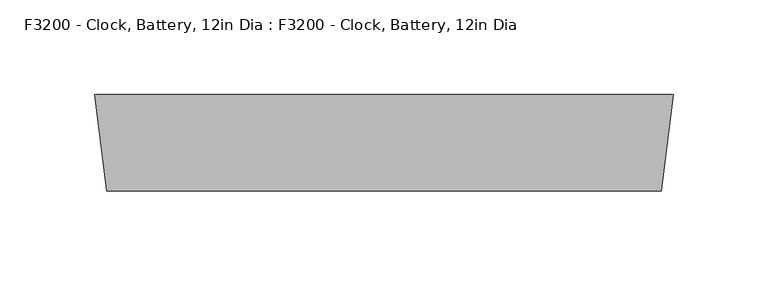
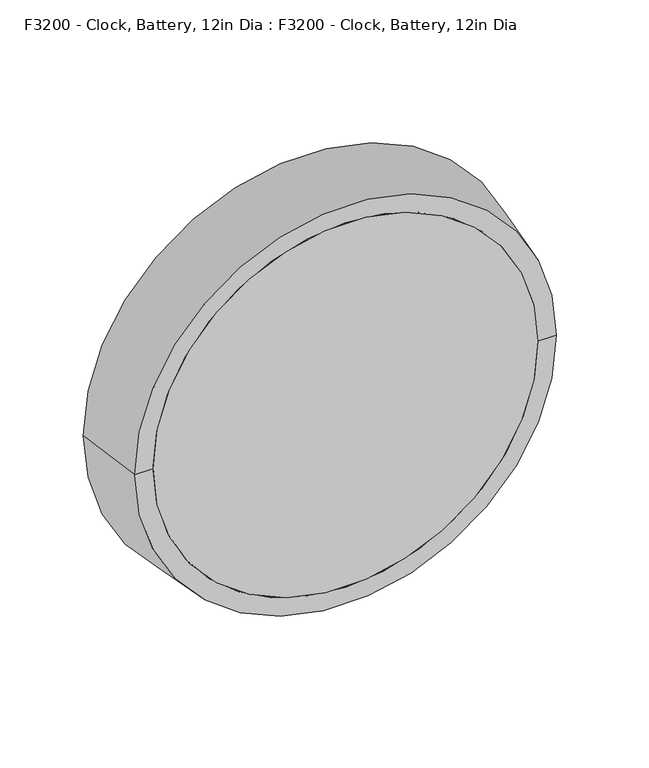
"""IFC4 building model written with IfcOpenShell, lengths in millimetres: proxy geometry, F3200 - Clock, Battery, 12in Dia : F3200 - Clock, Battery, 12in Dia."""

import ifcopenshell
import ifcopenshell.guid

model = None  # the IFC model being written
_history = None  # IfcOwnerHistory: only IFC2X3 demands one
_inside = {}  # id of a spatial element -> (the spatial element, [elements in it])
_under = {}  # id of a project, library or spatial element -> (it, [spatial elements below it])
_declared = {}  # id of a project -> (the project, [libraries it declares])
_typed = {}  # id of a type object -> (the type object, [elements of that type])
_made_of = {}  # id of a material, layer set ... -> (it, [elements and type objects made of it])


def new_model(schema):
    """Start an empty IFC model of exactly this schema.

    Asked for "IFC4X3", IfcOpenShell would pick the latest addendum, in which some entities
    have other attributes; the version numbers below select the first issue.
    IFC2X3 requires an IfcOwnerHistory on every rooted entity: one is made here for all.
    """
    global model, _history
    if schema == "IFC4X3":
        model = ifcopenshell.file(schema_version=(4, 3, 0, 0))
    else:
        model = ifcopenshell.file(schema=schema)
    _inside.clear()
    _under.clear()
    _declared.clear()
    _typed.clear()
    _made_of.clear()
    _history = None
    if model.schema == "IFC2X3":
        org = make("IfcOrganization", Name="unknown")
        user = make(
            "IfcPersonAndOrganization",
            ThePerson=make("IfcPerson", FamilyName="unknown"),
            TheOrganization=org,
        )
        app = make(
            "IfcApplication",
            ApplicationDeveloper=org,
            Version="unknown",
            ApplicationFullName="unknown",
            ApplicationIdentifier="unknown",
        )
        _history = make(
            "IfcOwnerHistory",
            OwningUser=user,
            OwningApplication=app,
            ChangeAction="ADDED",
            CreationDate=0,
        )
    return model


def make(cls, **values):
    """One entity of the class cls with the attributes given. An attribute that is None is left unset."""
    return model.create_entity(
        cls, **{name: value for name, value in values.items() if value is not None}
    )


def rooted(cls, **values):
    """An entity with a GlobalId (a new one), such as an element, a storey or a relation."""
    return make(cls, GlobalId=ifcopenshell.guid.new(), OwnerHistory=_history, **values)


def si_unit(unit_type, name, prefix=None):
    """IfcSIUnit, for example si_unit("LENGTHUNIT", "METRE", prefix="MILLI")."""
    return make("IfcSIUnit", UnitType=unit_type, Prefix=prefix, Name=name)


def assignment(units):
    """IfcUnitAssignment: the units of a project."""
    return None if units is None else make("IfcUnitAssignment", Units=units)


def point(xyz):
    """IfcCartesianPoint."""
    return None if xyz is None else make("IfcCartesianPoint", Coordinates=xyz)


def direction(xyz):
    """IfcDirection."""
    return None if xyz is None else make("IfcDirection", DirectionRatios=xyz)


def frame(location, z_axis=None, x_axis=None):
    """IfcAxis2Placement3D, a coordinate frame: its origin and axes. An axis left out is left unset."""
    return make(
        "IfcAxis2Placement3D",
        Location=point(location),
        Axis=direction(z_axis),
        RefDirection=direction(x_axis),
    )


def frame_2d(location, x_axis=None):
    """IfcAxis2Placement2D, a coordinate frame in the plane: its origin and x axis."""
    return make(
        "IfcAxis2Placement2D", Location=point(location), RefDirection=direction(x_axis)
    )


def origin():
    """The frame at (0, 0, 0) with its axes left unset."""
    return frame((0.0, 0.0, 0.0))


def place(relative_to, where):
    """IfcLocalPlacement: puts the frame where relative to a parent placement (None: the world)."""
    return make(
        "IfcLocalPlacement", PlacementRelTo=relative_to, RelativePlacement=where
    )


def context(
    kind, dimensions, precision=None, world=None, true_north=None, identifier=None
):
    """IfcGeometricRepresentationContext, for example the 3D "Model" context."""
    return make(
        "IfcGeometricRepresentationContext",
        ContextIdentifier=identifier,
        ContextType=kind,
        CoordinateSpaceDimension=dimensions,
        Precision=precision,
        WorldCoordinateSystem=world,
        TrueNorth=true_north,
    )


def project(units=None, contexts=None):
    """IfcProject with its units and contexts."""
    return rooted(
        "IfcProject",
        Name="project",
        RepresentationContexts=contexts,
        UnitsInContext=assignment(units),
    )


def spatial(cls, under=None, at=None, **own):
    """A site, building, storey or space (cls), placed at a placement, below another one or the project."""
    s = rooted(cls, ObjectPlacement=at, **own)
    if under is not None:
        _under.setdefault(under.id(), (under, []))[1].append(s)
    return s


def polyline(points):
    """IfcPolyline through the points."""
    return make("IfcPolyline", Points=[point(p) for p in points])


def circle_curve(where, radius):
    """IfcCircle in the frame where."""
    return make("IfcCircle", Position=where, Radius=radius)


def trimmed(basis, trim1, trim2, sense, master):
    """IfcTrimmedCurve: the piece of a basis curve between two trims."""
    return make(
        "IfcTrimmedCurve",
        BasisCurve=basis,
        Trim1=trim1,
        Trim2=trim2,
        SenseAgreement=sense,
        MasterRepresentation=master,
    )


def segment(curve, same_sense, transition):
    """IfcCompositeCurveSegment."""
    return make(
        "IfcCompositeCurveSegment",
        Transition=transition,
        SameSense=same_sense,
        ParentCurve=curve,
    )


def composite_curve(segments, self_intersect=None):
    """IfcCompositeCurve: segments joined end to end."""
    return make("IfcCompositeCurve", Segments=segments, SelfIntersect=self_intersect)


def outline(outer, holes=None, kind="AREA"):
    """IfcArbitraryClosedProfileDef: a profile drawn as a closed curve; with holes, ...WithVoids."""
    if holes is None:
        return make("IfcArbitraryClosedProfileDef", ProfileType=kind, OuterCurve=outer)
    return make(
        "IfcArbitraryProfileDefWithVoids",
        ProfileType=kind,
        OuterCurve=outer,
        InnerCurves=holes,
    )


def extrude(swept, where, along, depth):
    """IfcExtrudedAreaSolid: the profile swept, set in the frame where, extruded along a direction by depth."""
    return make(
        "IfcExtrudedAreaSolid",
        SweptArea=swept,
        Position=where,
        ExtrudedDirection=direction(along),
        Depth=depth,
    )


def shape(context_of_items, identifier, shape_type, items):
    """IfcShapeRepresentation: the items that make up one representation, for example the "Body"."""
    return make(
        "IfcShapeRepresentation",
        ContextOfItems=context_of_items,
        RepresentationIdentifier=identifier,
        RepresentationType=shape_type,
        Items=items,
    )


def source(mapping_origin, context_of_items, identifier, shape_type, items):
    """IfcRepresentationMap: a shape defined once, which mapped items show again and again."""
    return make(
        "IfcRepresentationMap",
        MappingOrigin=mapping_origin,
        MappedRepresentation=shape(context_of_items, identifier, shape_type, items),
    )


def transform(
    local_origin,
    x_axis=None,
    y_axis=None,
    z_axis=None,
    scale=None,
    scale2=None,
    scale3=None,
    uniform=True,
):
    """IfcCartesianTransformationOperator3D, or its non-uniform kind. x_axis, y_axis, z_axis: its Axis1, 2, 3."""
    if uniform:
        return make(
            "IfcCartesianTransformationOperator3D",
            Axis1=direction(x_axis),
            Axis2=direction(y_axis),
            LocalOrigin=point(local_origin),
            Scale=scale,
            Axis3=direction(z_axis),
        )
    return make(
        "IfcCartesianTransformationOperator3DnonUniform",
        Axis1=direction(x_axis),
        Axis2=direction(y_axis),
        LocalOrigin=point(local_origin),
        Scale=scale,
        Axis3=direction(z_axis),
        Scale2=scale2,
        Scale3=scale3,
    )


def mapped(mapping_source, mapping_target):
    """IfcMappedItem: shows the shape of a source again, moved by a transform."""
    return make(
        "IfcMappedItem", MappingSource=mapping_source, MappingTarget=mapping_target
    )


def made_of(thing, what):
    """Note that an element or type object is made of a material, layer set ...; save() writes the relation."""
    if what is not None:
        _made_of.setdefault(what.id(), (what, []))[1].append(thing)
    return thing


def element(
    cls,
    number,
    at=None,
    inside=None,
    cuts=None,
    type_object=None,
    material=None,
    context=None,
    identifier="Body",
    shape_type=None,
    held_by="IfcProductDefinitionShape",
    body=None,
    shapes=None,
    **own,
):
    """One element of the class cls, such as IfcWall. Its Tag is "e" and its number.

    at: its placement. inside: the storey or other place that contains it. cuts: it is an
    opening in that element (IfcRelVoidsElement). A single representation is given by context,
    identifier, shape_type and body (its items); several are given by shapes. held_by: the class
    of the entity that holds the representations. save() writes the other relations.
    """
    e = rooted(cls, Tag="e%d" % number, ObjectPlacement=at, **own)
    if body is not None:
        shapes = [shape(context, identifier, shape_type, body)]
    if shapes is not None:
        e.Representation = make(held_by, Representations=shapes)
    if inside is not None:
        _inside.setdefault(inside.id(), (inside, []))[1].append(e)
    if cuts is not None:
        rooted(
            "IfcRelVoidsElement", RelatingBuildingElement=cuts, RelatedOpeningElement=e
        )
    if type_object is not None:
        _typed.setdefault(type_object.id(), (type_object, []))[1].append(e)
    return made_of(e, material)


def aggregate(whole, parts):
    """IfcRelAggregates: a whole, such as a stair, and the parts it consists of."""
    return rooted("IfcRelAggregates", RelatingObject=whole, RelatedObjects=parts)


def save(model, path):
    """Write the relations noted so far, then the file.

    IfcRelAggregates (storeys below a building ...), IfcRelContainedInSpatialStructure (elements
    in a storey), IfcRelDefinesByType, IfcRelAssociatesMaterial and IfcRelDeclares: one each for
    every whole, place, type object, material and project.
    """
    for whole, parts in _under.values():
        aggregate(whole, parts)
    for where, things in _inside.values():
        rooted(
            "IfcRelContainedInSpatialStructure",
            RelatedElements=things,
            RelatingStructure=where,
        )
    for kind, things in _typed.values():
        rooted("IfcRelDefinesByType", RelatedObjects=things, RelatingType=kind)
    for what, things in _made_of.values():
        rooted("IfcRelAssociatesMaterial", RelatedObjects=things, RelatingMaterial=what)
    for by, libraries in _declared.values():
        rooted("IfcRelDeclares", RelatingContext=by, RelatedDefinitions=libraries)
    model.write(path)


def plane_surface(at):
    """IfcPlane: the flat surface through the origin of the frame at, square to its z axis."""
    return make("IfcPlane", Position=at)


def revolved_surface(curve, axis_point, axis_direction):
    """IfcSurfaceOfRevolution: the curve turned about the line through axis_point along axis_direction."""
    return make(
        "IfcSurfaceOfRevolution",
        SweptCurve=make("IfcArbitraryOpenProfileDef", ProfileType="CURVE", Curve=curve),
        AxisPosition=make("IfcAxis1Placement", Location=point(axis_point), Axis=direction(axis_direction)),
    )


def advanced_brep(points, edges, surfaces, faces):
    """IfcAdvancedBrep: a solid bounded by faces that lie on surfaces and meet in shared edges.

    An edge is (start, end): straight between two places in points (the first is 0);
    or (start, end, curve); or (start, end, curve, False) where it runs against its curve.
    A face is (place in surfaces, loops), or (place, loops, False) where it looks against
    its surface's normal. A loop lists edges by number (the first is 1), with a minus sign
    where the edge is run from its end to its start. The first loop is the outer one.
    """
    corners = [point(p) for p in points]
    vertices = [make("IfcVertexPoint", VertexGeometry=c) for c in corners]
    made = []
    for start, end, *more in edges:
        made.append(
            make(
                "IfcEdgeCurve",
                EdgeStart=vertices[start],
                EdgeEnd=vertices[end],
                EdgeGeometry=more[0] if more else make("IfcPolyline", Points=[corners[start], corners[end]]),
                SameSense=more[1] if len(more) > 1 else True,
            )
        )
    hull = []
    for where, loops, *sense in faces:
        bounds = []
        for j, loop in enumerate(loops):
            ring = [make("IfcOrientedEdge", EdgeElement=made[abs(k) - 1], Orientation=k > 0) for k in loop]
            bounds.append(
                make(
                    "IfcFaceOuterBound" if j == 0 else "IfcFaceBound",
                    Bound=make("IfcEdgeLoop", EdgeList=ring),
                    Orientation=True,
                )
            )
        hull.append(make("IfcAdvancedFace", Bounds=bounds, FaceSurface=surfaces[where], SameSense=sense[0] if sense else True))
    return make("IfcAdvancedBrep", Outer=make("IfcClosedShell", CfsFaces=hull))


def f3200_clock_battery_12in_dia_f3200_clock_battery_12in_dia_24be97cd(model_context):
    return source(origin(), model_context, "Body", "SolidModel", [
        extrude(outline(composite_curve([segment(trimmed(circle_curve(frame_2d((112.8220504, -50.5930213)), 133.35), [point((112.8220504, -183.9430213))], [point((112.8220504, 82.7569787))], False, "CARTESIAN"), True, "CONTINUOUS"), segment(trimmed(circle_curve(frame_2d((112.8220504, -50.5930213)), 133.35), [point((112.8220504, 82.7569787))], [point((112.8220504, -183.9430213))], False, "CARTESIAN"), True, "CONTINUOUS")], self_intersect=False)), frame((0.0, -50.8, 0.0), z_axis=(0.0, 1.0, 0.0), x_axis=(0.0, 0.0, 1.0)), (0.0, 0.0, 1.0), 6.35),
        advanced_brep(
        [(-50.5930213, 0.0, 112.8220504), (101.8069787, 0.0, 112.8220504), (-202.9930213, 0.0, 112.8220504), (-183.9430213, -44.45, 112.8220504), (82.7569787, -44.45, 112.8220504), (-50.5930213, -44.45, 112.8220504), (-183.9430213, -50.8, 112.8220504), (82.7569787, -50.8, 112.8220504), (-196.6430213, -50.8, 112.8220504), (95.4569787, -50.8, 112.8220504)],
        [
            (0, 1),
            (1, 2, circle_curve(frame((-50.5930213, 0.0, 112.8220504), z_axis=(0.0, 1.0, 0.0), x_axis=(1.0, 0.0, 0.0)), 152.4)),
            (2, 0),
            (2, 1, circle_curve(frame((-50.5930213, 0.0, 112.8220504), z_axis=(0.0, 1.0, 0.0), x_axis=(1.0, 0.0, 0.0)), 152.4)),
            (3, 4, circle_curve(frame((-50.5930213, -44.45, 112.8220504), z_axis=(0.0, -1.0, 0.0), x_axis=(1.0, 0.0, 0.0)), 133.35)),
            (4, 5),
            (5, 3),
            (4, 3, circle_curve(frame((-50.5930213, -44.45, 112.8220504), z_axis=(0.0, -1.0, 0.0), x_axis=(1.0, 0.0, 0.0)), 133.35)),
            (6, 7, circle_curve(frame((-50.5930213, -50.8, 112.8220504), z_axis=(0.0, -1.0, 0.0), x_axis=(1.0, 0.0, 0.0)), 133.35)),
            (7, 4),
            (3, 6),
            (7, 6, circle_curve(frame((-50.5930213, -50.8, 112.8220504), z_axis=(0.0, -1.0, 0.0), x_axis=(1.0, 0.0, 0.0)), 133.35)),
            (8, 9, circle_curve(frame((-50.5930213, -50.8, 112.8220504), z_axis=(0.0, -1.0, 0.0), x_axis=(1.0, 0.0, 0.0)), 146.05)),
            (9, 7),
            (6, 8),
            (9, 8, circle_curve(frame((-50.5930213, -50.8, 112.8220504), z_axis=(0.0, -1.0, 0.0), x_axis=(1.0, 0.0, 0.0)), 146.05)),
            (1, 9),
            (8, 2),
        ],
        [
            plane_surface(frame((-50.5930213, 0.0, 112.8220504), z_axis=(0.0, 1.0, 0.0), x_axis=(1.0, 0.0, 0.0))),
            plane_surface(frame((-50.5930213, -44.45, 112.8220504), z_axis=(0.0, -1.0, 0.0), x_axis=(1.0, 0.0, 0.0))),
            revolved_surface(polyline([(82.75697869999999, -44.45, 112.8220504), (82.75697869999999, -50.8, 112.8220504)]), (-50.5930213, 0.0, 112.8220504), (0.0, 1.0, 0.0)),
            plane_surface(frame((-50.5930213, -50.8, 112.8220504), z_axis=(0.0, -1.0, 0.0), x_axis=(1.0, 0.0, 0.0))),
            revolved_surface(polyline([(95.4569787, -50.8, 112.8220504), (101.8069787, 0.0, 112.8220504)]), (-50.5930213, 0.0, 112.8220504), (0.0, 1.0, 0.0)),
        ],
        [
            (0, [[1, 2, 3]]),
            (0, [[-3, 4, -1]]),
            (1, [[5, 6, 7]]),
            (1, [[8, -7, -6]]),
            (2, [[9, 10, -5, 11]]),
            (2, [[12, -11, -8, -10]]),
            (3, [[13, 14, -9, 15]]),
            (3, [[16, -15, -12, -14]]),
            (4, [[-2, 17, -13, 18]]),
            (4, [[-4, -18, -16, -17]]),
        ],
    ),
    ])


if __name__ == "__main__":
    model = new_model("IFC4")
    model_context = context("Model", 3, world=origin())
    ifc_project = project(units=[si_unit("LENGTHUNIT", "METRE", prefix="MILLI")], contexts=[model_context])
    site = spatial("IfcSite", under=ifc_project)
    building = spatial("IfcBuilding", under=site)
    placement = place(None, origin())
    f3200_clock_battery_12in_dia_f3200_clock_battery_12in_dia_shape = f3200_clock_battery_12in_dia_f3200_clock_battery_12in_dia_24be97cd(model_context)
    element("IfcBuildingElementProxy", 1, Name="F3200 - Clock, Battery, 12in Dia : F3200 - Clock, Battery, 12in Dia", ObjectType="F3200 - Clock, Battery, 12in Dia : F3200 - Clock, Battery, 12in Dia", at=placement, inside=building, context=model_context, shape_type="MappedRepresentation", body=[
        mapped(f3200_clock_battery_12in_dia_f3200_clock_battery_12in_dia_shape, transform((0.0, 0.0, 0.0), x_axis=(1.0, 0.0, 0.0), y_axis=(0.0, 1.0, 0.0), z_axis=(0.0, 0.0, 1.0))),
    ])
    save(model, "model.ifc")
